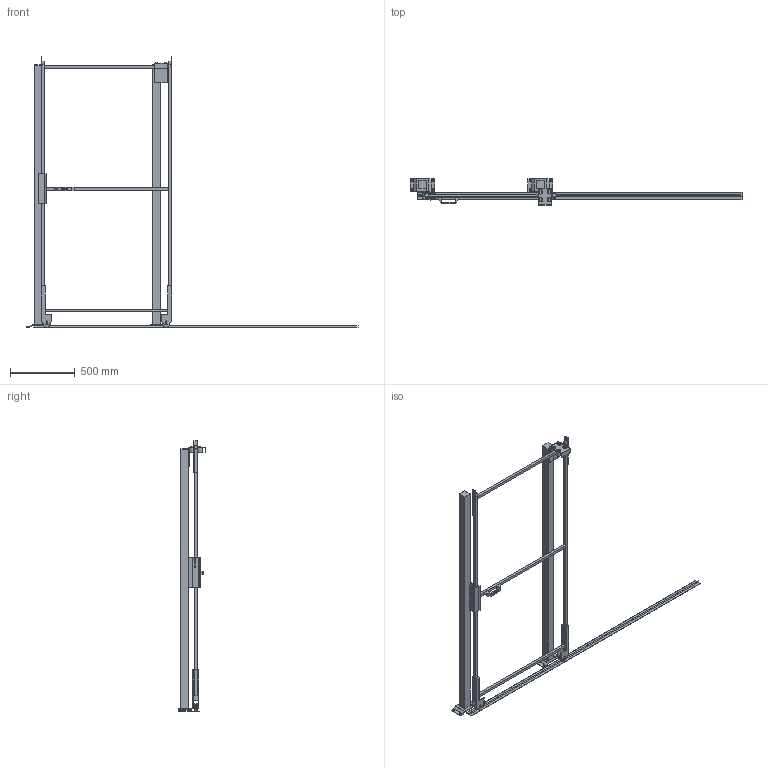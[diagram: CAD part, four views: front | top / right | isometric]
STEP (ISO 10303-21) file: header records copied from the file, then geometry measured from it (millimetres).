
FILE_DESCRIPTION(/* description */ (''),/* implementation_level */ '2;1');
FILE_NAME(/* name */ 'C:\SafeGuarding\ELABORATI\Drawing5_2025-04-02-10-09-45.stp',/* time_stamp */ '2025-04-02T10:09:49+02:00',/* author */ ('admin'),/* organization */ (''),/* preprocessor_version */ 'ST-DEVELOPER v18.1',/* originating_system */ 'AutoCAD Mechanical',/* authorisation */ '');
FILE_SCHEMA (('AUTOMOTIVE_DESIGN { 1 0 10303 214 3 1 1 }'));
Length unit declared in the file: millimetre
Products named in the file (3): Product; R_VFPA.REPE20.10001900; P_VFMA.V260SDU.2020
Assembly tree (3 placements, depth 2):
  Product
    R_VFPA.REPE20.10001900
    P_VFMA.V260SDU.2020  x2
Bounding box: 2561 x 210 x 2090 mm (x, y, z)
Volume: 18868868.4 mm3; surface area: 2358796 mm2
Topology: 32 solids, 43 shells, 328 faces, 1026 edges, 979 vertices
Faces by surface type: plane 282, cylinder 40, cone 4, sphere 2
Full cylindrical faces by diameter (mm): 9 x4, 11 x8, 13 x4, 18 x4, 30 x2, 36 x4, 58 x4
Entity records: 10613 total; most frequent: CARTESIAN_POINT 2281, DIRECTION 1620, ORIENTED_EDGE 1484, EDGE_CURVE 791, LINE 708, VECTOR 708, VERTEX_POINT 568, AXIS2_PLACEMENT_3D 456
